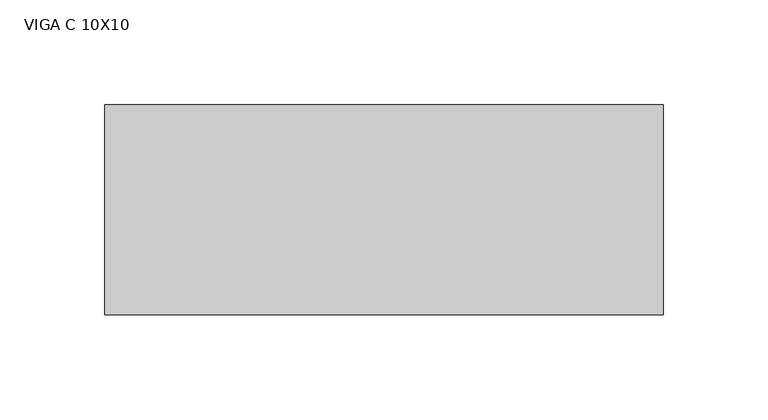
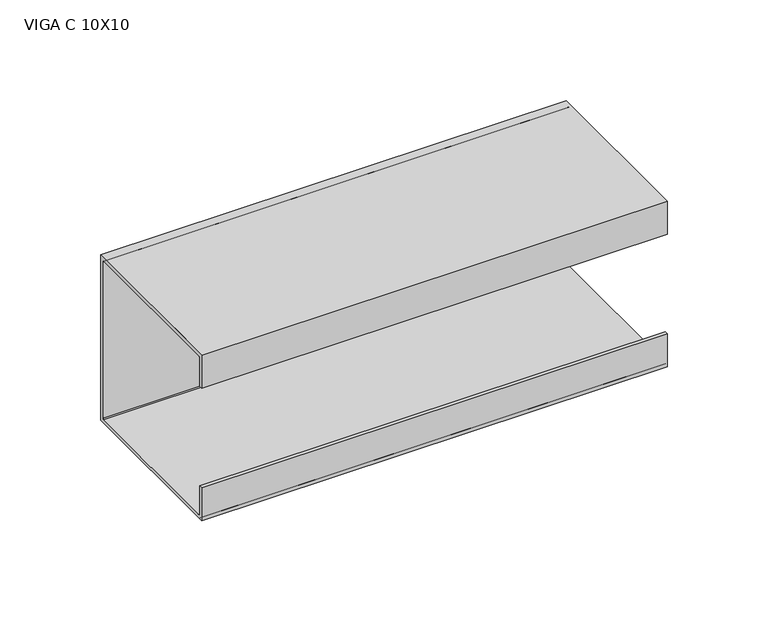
"""IFC4 building model written with IfcOpenShell, lengths in millimetres: beam geometry, VIGA PERFIL C AÇO : VIGA C 10X10."""

from ifc_helpers import new_model, si_unit, point, frame, frame_2d, origin, place, context, project, spatial, polyline, circle_curve, trimmed, segment, composite_curve, outline, extrude, source, transform, mapped, element, save


def viga_c_10x10_2131d65c(model_context):
    return source(origin(), model_context, "Body", "SweptSolid", [
        extrude(outline(polyline([(9.2, -50.0), (-90.8, -50.0), (-90.8, -30.0), (-88.9, -30.0), (-88.9, -48.1), (7.3, -48.1), (7.3, 48.1), (-88.9, 48.1), (-88.9, 30.0), (-90.8, 30.0), (-90.8, 50.0), (9.2, 50.0), (9.2, -50.0)])), frame((-132.5, 0.0, 0.0), z_axis=(1.0, 0.0, 0.0), x_axis=(0.0, 1.0, 0.0)), (0.0, 0.0, 1.0), 266.0),
        extrude(outline(composite_curve([segment(trimmed(circle_curve(frame_2d((5.4, -46.2)), 3.8), [point((9.2, -46.2))], [point((5.4, -50.0))], False, "CARTESIAN"), True, "CONTINUOUS"), segment(polyline([(5.4, -50.0), (-87.0, -50.0)]), True, "CONTINUOUS"), segment(trimmed(circle_curve(frame_2d((-87.0, -46.2)), 3.8), [point((-87.0, -50.0))], [point((-90.8, -46.2))], False, "CARTESIAN"), True, "CONTINUOUS"), segment(polyline([(-90.8, -46.2), (-90.8, -30.0), (-88.9, -30.0), (-88.9, -46.2)]), True, "CONTINUOUS"), segment(trimmed(circle_curve(frame_2d((-87.0, -46.2)), 1.9), [point((-88.9, -46.2))], [point((-87.0, -48.1))], True, "CARTESIAN"), True, "CONTINUOUS"), segment(polyline([(-87.0, -48.1), (5.4, -48.1)]), True, "CONTINUOUS"), segment(trimmed(circle_curve(frame_2d((5.4, -46.2)), 1.9), [point((5.4, -48.1))], [point((7.3, -46.2))], True, "CARTESIAN"), True, "CONTINUOUS"), segment(polyline([(7.3, -46.2), (7.3, 46.2)]), True, "CONTINUOUS"), segment(trimmed(circle_curve(frame_2d((5.4, 46.2)), 1.9), [point((7.3, 46.2))], [point((5.4, 48.1))], True, "CARTESIAN"), True, "CONTINUOUS"), segment(polyline([(5.4, 48.1), (-87.0, 48.1)]), True, "CONTINUOUS"), segment(trimmed(circle_curve(frame_2d((-87.0, 46.2)), 1.9), [point((-87.0, 48.1))], [point((-88.9, 46.2))], True, "CARTESIAN"), True, "CONTINUOUS"), segment(polyline([(-88.9, 46.2), (-88.9, 30.0), (-90.8, 30.0), (-90.8, 46.2)]), True, "CONTINUOUS"), segment(trimmed(circle_curve(frame_2d((-87.0, 46.2)), 3.8), [point((-90.8, 46.2))], [point((-87.0, 50.0))], False, "CARTESIAN"), True, "CONTINUOUS"), segment(polyline([(-87.0, 50.0), (5.4, 50.0)]), True, "CONTINUOUS"), segment(trimmed(circle_curve(frame_2d((5.4, 46.2)), 3.8), [point((5.4, 50.0))], [point((9.2, 46.2))], False, "CARTESIAN"), True, "CONTINUOUS"), segment(polyline([(9.2, 46.2), (9.2, -46.2)]), True, "CONTINUOUS")], self_intersect=False)), frame((-132.5, 0.0, 0.0), z_axis=(1.0, 0.0, 0.0), x_axis=(0.0, 1.0, 0.0)), (0.0, 0.0, 1.0), 266.0),
    ])


if __name__ == "__main__":
    model = new_model("IFC4")
    model_context = context("Model", 3, world=origin())
    ifc_project = project(units=[si_unit("LENGTHUNIT", "METRE", prefix="MILLI")], contexts=[model_context])
    site = spatial("IfcSite", under=ifc_project)
    building = spatial("IfcBuilding", under=site)
    placement = place(None, origin())
    viga_c_10x10_shape = viga_c_10x10_2131d65c(model_context)
    element("IfcBeam", 1, ObjectType="VIGA PERFIL C AÇO : VIGA C 10X10", at=placement, inside=building, context=model_context, shape_type="MappedRepresentation", body=[
        mapped(viga_c_10x10_shape, transform((0.0, 0.0, 0.0), x_axis=(1.0, 0.0, 0.0), y_axis=(0.0, 1.0, 0.0), z_axis=(0.0, 0.0, 1.0))),
    ])
    save(model, "model.ifc")
